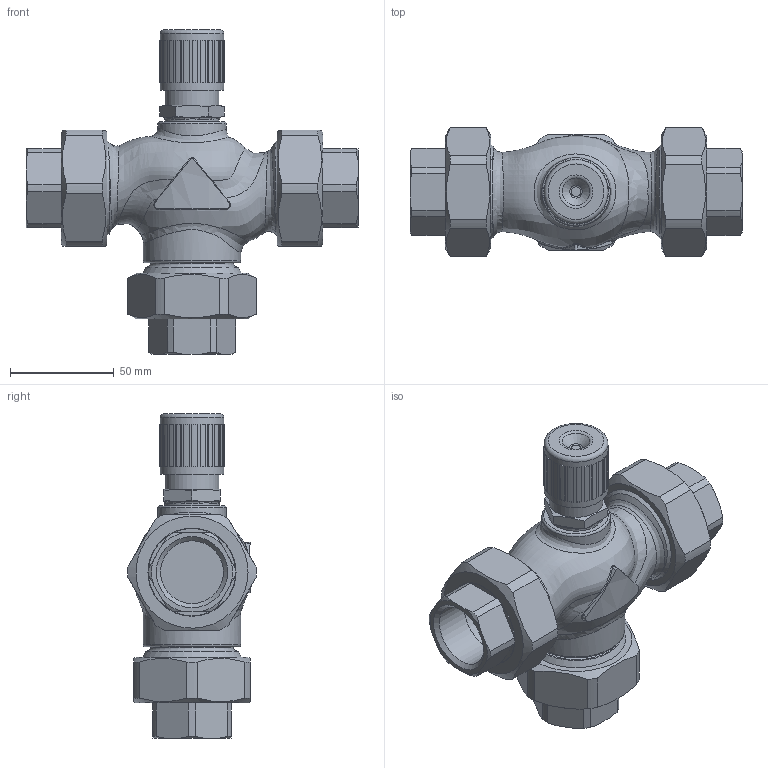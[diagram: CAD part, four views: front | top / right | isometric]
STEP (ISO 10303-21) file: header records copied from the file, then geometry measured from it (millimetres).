
FILE_DESCRIPTION(/* description */ (''),/* implementation_level */ '2;1');
FILE_NAME(/* name */ 'rv111r_dn25_3_T.stp',/* time_stamp */ '2012-02-21T13:06:43+01:00',/* author */ ('KLIMES'),/* organization */ ('LDM'),/* preprocessor_version */ 'ST-DEVELOPER v11',/* originating_system */ 'SIEMENS PLM Software NX 7.0',/* authorisation */ '');
FILE_SCHEMA (('CONFIG_CONTROL_DESIGN'));
Length unit declared in the file: millimetre
Products named in the file (1): klim56BEqbmd
Bounding box: 160 x 61.98 x 156.3 mm (x, y, z)
Volume: 394005.6 mm3; surface area: 91125.4 mm2
Topology: 11 solids, 11 shells, 371 faces, 886 edges, 578 vertices
Faces by surface type: plane 199, cone 74, cylinder 58, bspline 25, torus 15
Full cylindrical faces by diameter (mm): 8 x1, 23.4 x1, 24.117 x1, 26 x1, 26.5 x1, 30.291 x3, 30.8 x1, 33 x7, 40 x1, 42 x3, 42.5 x3, 44 x3, 44.5 x3, 44.845 x3, 47 x1, 47.8 x2, 47.803 x1
Entity records: 16014 total; most frequent: CARTESIAN_POINT 7905, DIRECTION 1642, ORIENTED_EDGE 1554, EDGE_CURVE 777, AXIS2_PLACEMENT_3D 665, VERTEX_POINT 543, EDGE_LOOP 504, ADVANCED_FACE 371
